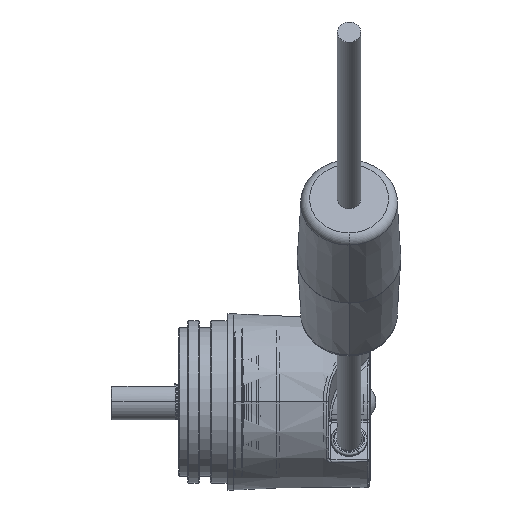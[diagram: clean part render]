
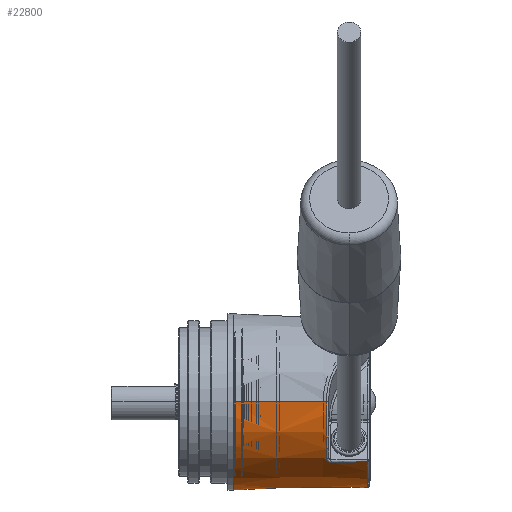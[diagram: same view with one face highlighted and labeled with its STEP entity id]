
A CAD part, front view. The second image highlights one B-rep face of the part: STEP entity #22800.
In plain terms, the highlighted conical face has half-angle 1 degrees and reference radius 18.976 mm.
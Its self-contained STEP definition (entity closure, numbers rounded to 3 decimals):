
#6727 = CARTESIAN_POINT ( 'NONE',  ( 41.709, -13.586, -13.261 ) ) ;
#10890 = DIRECTION ( 'NONE',  ( 0., -1., 0. ) ) ;
#10891 = DIRECTION ( 'NONE',  ( -1., 0., 0. ) ) ;
#10892 = CARTESIAN_POINT ( 'NONE',  ( 12.2, 0., 0. ) ) ;
#10893 = AXIS2_PLACEMENT_3D ( 'NONE', #10892, #10891, #10890 ) ;
#10894 = CIRCLE ( 'NONE', #10893, 19.5 ) ;
#20429 = DIRECTION ( 'NONE',  ( 0., -1., 0. ) ) ;
#20430 = DIRECTION ( 'NONE',  ( -1., 0., 0. ) ) ;
#20431 = CARTESIAN_POINT ( 'NONE',  ( 32.709, 0., 0. ) ) ;
#20432 = AXIS2_PLACEMENT_3D ( 'NONE', #20431, #20430, #20429 ) ;
#20434 = CIRCLE ( 'NONE', #20432, 19.142 ) ;
#22800 = ADVANCED_FACE ( 'NONE', ( #57698 ), #57735, .T. ) ;
#22803 = EDGE_LOOP ( 'NONE', ( #22805, #22815, #22824, #22944, #22954, #23264, #23205 ) ) ;
#22805 = ORIENTED_EDGE ( 'NONE', *, *, #25632, .F. ) ;
#22815 = ORIENTED_EDGE ( 'NONE', *, *, #22819, .T. ) ;
#22819 = EDGE_CURVE ( 'NONE', #25610, #48821, #57725, .T. ) ;
#22824 = ORIENTED_EDGE ( 'NONE', *, *, #22826, .T. ) ;
#22826 = EDGE_CURVE ( 'NONE', #48821, #22830, #57719, .T. ) ;
#22830 = VERTEX_POINT ( 'NONE', #57718 ) ;
#22944 = ORIENTED_EDGE ( 'NONE', *, *, #22948, .F. ) ;
#22948 = EDGE_CURVE ( 'NONE', #22950, #22830, #57811, .T. ) ;
#22950 = VERTEX_POINT ( 'NONE', #57810 ) ;
#22954 = ORIENTED_EDGE ( 'NONE', *, *, #23441, .T. ) ;
#23205 = ORIENTED_EDGE ( 'NONE', *, *, #52386, .F. ) ;
#23264 = ORIENTED_EDGE ( 'NONE', *, *, #25639, .T. ) ;
#23441 = EDGE_CURVE ( 'NONE', #22950, #25641, #20434, .T. ) ;
#25610 = VERTEX_POINT ( 'NONE', #30613 ) ;
#25632 = EDGE_CURVE ( 'NONE', #25610, #25634, #30381, .T. ) ;
#25634 = VERTEX_POINT ( 'NONE', #30372 ) ;
#25637 = VERTEX_POINT ( 'NONE', #30761 ) ;
#25639 = EDGE_CURVE ( 'NONE', #25641, #25637, #30756, .T. ) ;
#25641 = VERTEX_POINT ( 'NONE', #30750 ) ;
#30372 = CARTESIAN_POINT ( 'NONE',  ( 12.2, 19.5, 0. ) ) ;
#30376 = DIRECTION ( 'NONE',  ( -1., 0.017, 0. ) ) ;
#30378 = VECTOR ( 'NONE', #30376, 1000. ) ;
#30380 = CARTESIAN_POINT ( 'NONE',  ( 42.2, 18.976, 0. ) ) ;
#30381 = LINE ( 'NONE', #30380, #30378 ) ;
#30613 = CARTESIAN_POINT ( 'NONE',  ( 41.709, 18.985, 0. ) ) ;
#30750 = CARTESIAN_POINT ( 'NONE',  ( 32.709, -19.142, 0. ) ) ;
#30751 = DIRECTION ( 'NONE',  ( -1., -0.017, 0. ) ) ;
#30753 = VECTOR ( 'NONE', #30751, 1000. ) ;
#30754 = CARTESIAN_POINT ( 'NONE',  ( 42.2, -18.976, 0. ) ) ;
#30756 = LINE ( 'NONE', #30754, #30753 ) ;
#30761 = CARTESIAN_POINT ( 'NONE',  ( 12.2, -19.5, 0. ) ) ;
#48821 = VERTEX_POINT ( 'NONE', #6727 ) ;
#52386 = EDGE_CURVE ( 'NONE', #25634, #25637, #10894, .T. ) ;
#57698 = FACE_OUTER_BOUND ( 'NONE', #22803, .T. ) ;
#57703 = CARTESIAN_POINT ( 'NONE',  ( 35.709, -13.64, -13.356 ) ) ;
#57704 = CARTESIAN_POINT ( 'NONE',  ( 36.71, -13.631, -13.34 ) ) ;
#57705 = CARTESIAN_POINT ( 'NONE',  ( 38.043, -13.619, -13.319 ) ) ;
#57706 = CARTESIAN_POINT ( 'NONE',  ( 39.376, -13.607, -13.298 ) ) ;
#57707 = CARTESIAN_POINT ( 'NONE',  ( 40.709, -13.595, -13.277 ) ) ;
#57708 = CARTESIAN_POINT ( 'NONE',  ( 41.042, -13.592, -13.271 ) ) ;
#57709 = CARTESIAN_POINT ( 'NONE',  ( 41.375, -13.589, -13.266 ) ) ;
#57710 = CARTESIAN_POINT ( 'NONE',  ( 41.709, -13.586, -13.261 ) ) ;
#57718 = CARTESIAN_POINT ( 'NONE',  ( 33.709, -13.658, -13.387 ) ) ;
#57719 = B_SPLINE_CURVE_WITH_KNOTS ( 'NONE', 3,
 ( #57710, #57709, #57708, #57707, #57706, #57705, #57704, #57703, #57754, #57753 ),
 .UNSPECIFIED., .F., .F.,
 ( 4, 3, 3, 4 ),
 ( 0., 0.001, 0.005, 0.008 ),
 .UNSPECIFIED. ) ;
#57721 = DIRECTION ( 'NONE',  ( 0., 1., 0. ) ) ;
#57722 = DIRECTION ( 'NONE',  ( -1., 0., 0. ) ) ;
#57723 = CARTESIAN_POINT ( 'NONE',  ( 41.709, 0., 0. ) ) ;
#57724 = AXIS2_PLACEMENT_3D ( 'NONE', #57723, #57722, #57721 ) ;
#57725 = CIRCLE ( 'NONE', #57724, 18.985 ) ;
#57731 = DIRECTION ( 'NONE',  ( 0., -1., 0. ) ) ;
#57732 = DIRECTION ( 'NONE',  ( -1., 0., 0. ) ) ;
#57733 = AXIS2_PLACEMENT_3D ( 'NONE', #57734, #57732, #57731 ) ;
#57734 = CARTESIAN_POINT ( 'NONE',  ( 42.2, 0., 0. ) ) ;
#57735 = CONICAL_SURFACE ( 'NONE', #57733, 18.976, 0.017 ) ;
#57753 = CARTESIAN_POINT ( 'NONE',  ( 33.709, -13.658, -13.387 ) ) ;
#57754 = CARTESIAN_POINT ( 'NONE',  ( 34.709, -13.649, -13.371 ) ) ;
#57794 = CARTESIAN_POINT ( 'NONE',  ( 33.709, -13.658, -13.387 ) ) ;
#57795 = CARTESIAN_POINT ( 'NONE',  ( 33.572, -13.659, -13.389 ) ) ;
#57796 = CARTESIAN_POINT ( 'NONE',  ( 33.437, -13.681, -13.37 ) ) ;
#57797 = CARTESIAN_POINT ( 'NONE',  ( 33.19, -13.762, -13.293 ) ) ;
#57798 = CARTESIAN_POINT ( 'NONE',  ( 33.079, -13.821, -13.235 ) ) ;
#57799 = CARTESIAN_POINT ( 'NONE',  ( 32.898, -13.961, -13.091 ) ) ;
#57800 = CARTESIAN_POINT ( 'NONE',  ( 32.827, -14.044, -13.005 ) ) ;
#57801 = CARTESIAN_POINT ( 'NONE',  ( 32.733, -14.216, -12.819 ) ) ;
#57802 = CARTESIAN_POINT ( 'NONE',  ( 32.709, -14.307, -12.718 ) ) ;
#57803 = CARTESIAN_POINT ( 'NONE',  ( 32.709, -14.397, -12.615 ) ) ;
#57810 = CARTESIAN_POINT ( 'NONE',  ( 32.709, -14.397, -12.615 ) ) ;
#57811 = B_SPLINE_CURVE_WITH_KNOTS ( 'NONE', 3,
 ( #57803, #57802, #57801, #57800, #57799, #57798, #57797, #57796, #57795, #57794 ),
 .UNSPECIFIED., .F., .F.,
 ( 4, 2, 2, 2, 4 ),
 ( 0., 0., 0.001, 0.001, 0.002 ),
 .UNSPECIFIED. ) ;
